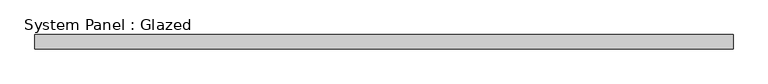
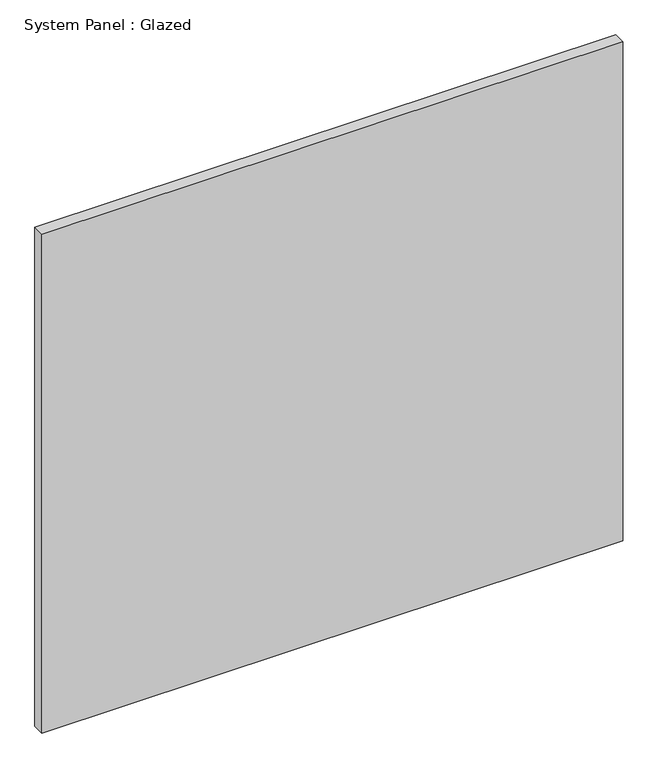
"""IFC4 building model written with IfcOpenShell, lengths in millimetres: plate geometry, System Panel : Glazed."""

from ifc_helpers import new_model, si_unit, origin, origin_with_axes, place, context, project, spatial, polyline, outline, extrude, source, transform, mapped, element, save


def system_panel_glazed_aff2306c(model_context):
    return source(origin(), model_context, "Body", "SweptSolid", [
        extrude(outline(polyline([(625.475, 19.05), (-625.475, 19.05), (-625.475, 44.45), (625.475, 44.45), (625.475, 19.05)])), origin_with_axes(), (0.0, 0.0, 1.0), 1135.95),
    ])


if __name__ == "__main__":
    model = new_model("IFC4")
    model_context = context("Model", 3, world=origin())
    ifc_project = project(units=[si_unit("LENGTHUNIT", "METRE", prefix="MILLI")], contexts=[model_context])
    site = spatial("IfcSite", under=ifc_project)
    building = spatial("IfcBuilding", under=site)
    placement = place(None, origin())
    system_panel_glazed_shape = system_panel_glazed_aff2306c(model_context)
    element("IfcPlate", 1, ObjectType="System Panel : Glazed", at=placement, inside=building, context=model_context, shape_type="MappedRepresentation", body=[
        mapped(system_panel_glazed_shape, transform((0.0, 0.0, 0.0), x_axis=(1.0, 0.0, 0.0), y_axis=(0.0, 1.0, 0.0), z_axis=(0.0, 0.0, 1.0))),
    ])
    save(model, "model.ifc")
